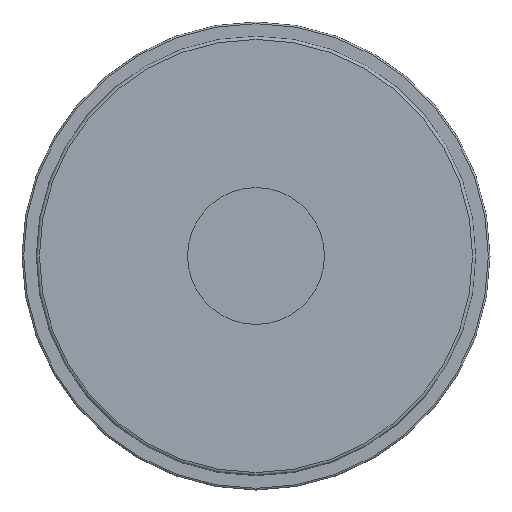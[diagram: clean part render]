
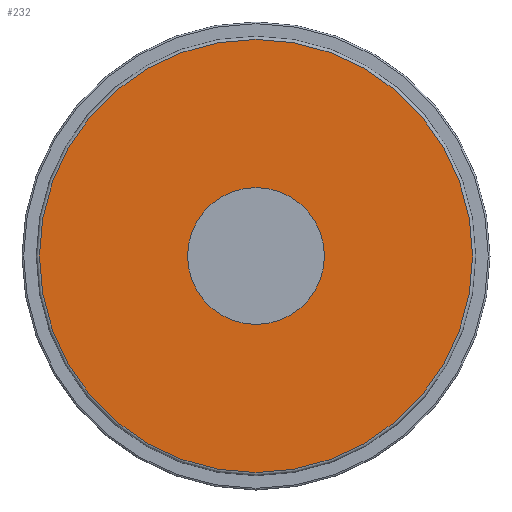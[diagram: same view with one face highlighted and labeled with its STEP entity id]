
A CAD part, left-side view. The second image highlights one B-rep face of the part: STEP entity #232.
In plain terms, the highlighted planar face has unit normal (-1, 0, 0).
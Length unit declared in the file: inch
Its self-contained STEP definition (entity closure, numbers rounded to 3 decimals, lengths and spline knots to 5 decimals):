
#46=FACE_BOUND('',#75,.T.);
#52=PLANE('',#281);
#62=FACE_OUTER_BOUND('',#74,.T.);
#74=EDGE_LOOP('',(#193,#194));
#75=EDGE_LOOP('',(#195));
#89=CIRCLE('',#258,0.6575);
#103=CIRCLE('',#277,2.0825);
#104=CIRCLE('',#278,2.0825);
#111=VERTEX_POINT('',#404);
#124=VERTEX_POINT('',#437);
#125=VERTEX_POINT('',#439);
#132=EDGE_CURVE('',#111,#111,#89,.T.);
#147=EDGE_CURVE('',#124,#125,#103,.T.);
#148=EDGE_CURVE('',#125,#124,#104,.T.);
#193=ORIENTED_EDGE('',*,*,#148,.F.);
#194=ORIENTED_EDGE('',*,*,#147,.F.);
#195=ORIENTED_EDGE('',*,*,#132,.T.);
#232=ADVANCED_FACE('',(#62,#46),#52,.T.);
#258=AXIS2_PLACEMENT_3D('',#406,#309,#310);
#277=AXIS2_PLACEMENT_3D('',#440,#348,#349);
#278=AXIS2_PLACEMENT_3D('',#441,#350,#351);
#281=AXIS2_PLACEMENT_3D('',#445,#357,#358);
#309=DIRECTION('center_axis',(1.,0.,0.));
#310=DIRECTION('ref_axis',(0.,0.,-1.));
#348=DIRECTION('center_axis',(1.,0.,0.));
#349=DIRECTION('ref_axis',(0.,-1.,0.));
#350=DIRECTION('center_axis',(1.,0.,0.));
#351=DIRECTION('ref_axis',(0.,-1.,0.));
#357=DIRECTION('center_axis',(-1.,0.,0.));
#358=DIRECTION('ref_axis',(0.,0.,1.));
#404=CARTESIAN_POINT('',(0.,0.,0.6575));
#406=CARTESIAN_POINT('Origin',(0.,0.,0.));
#437=CARTESIAN_POINT('',(0.,0.,2.0825));
#439=CARTESIAN_POINT('',(0.,2.0825,0.));
#440=CARTESIAN_POINT('Origin',(0.,0.,0.));
#441=CARTESIAN_POINT('Origin',(0.,0.,0.));
#445=CARTESIAN_POINT('Origin',(0.,2.1125,0.));
